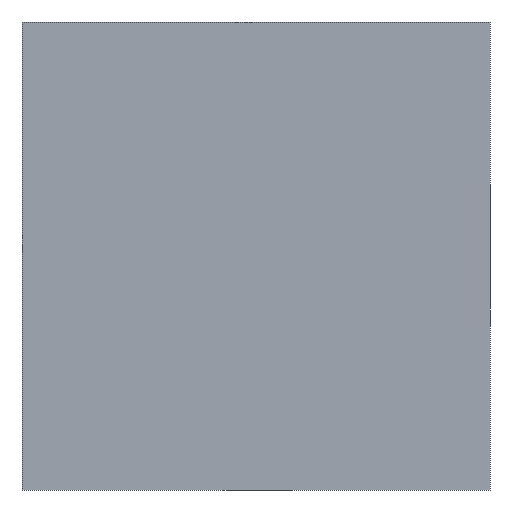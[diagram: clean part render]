
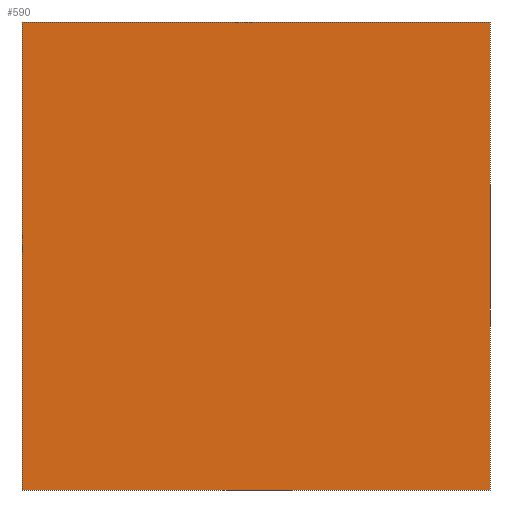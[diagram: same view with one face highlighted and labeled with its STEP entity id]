
A CAD part, front view. The second image highlights one B-rep face of the part: STEP entity #590.
In plain terms, the highlighted planar face has unit normal (0, -1, 0).
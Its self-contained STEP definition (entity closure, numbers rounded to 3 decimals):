
#44 = PLANE('',#45);
#45 = AXIS2_PLACEMENT_3D('',#46,#47,#48);
#46 = CARTESIAN_POINT('',(0.,0.,0.));
#47 = DIRECTION('',(-1.,0.,0.));
#48 = DIRECTION('',(0.,1.,0.));
#72 = PLANE('',#73);
#73 = AXIS2_PLACEMENT_3D('',#74,#75,#76);
#74 = CARTESIAN_POINT('',(6.5,106.5,13.));
#75 = DIRECTION('',(-0.,-0.,-1.));
#76 = DIRECTION('',(-1.,0.,0.));
#100 = PLANE('',#101);
#101 = AXIS2_PLACEMENT_3D('',#102,#103,#104);
#102 = CARTESIAN_POINT('',(13.,213.,0.));
#103 = DIRECTION('',(1.,0.,0.));
#104 = DIRECTION('',(0.,-1.,0.));
#126 = PLANE('',#127);
#127 = AXIS2_PLACEMENT_3D('',#128,#129,#130);
#128 = CARTESIAN_POINT('',(6.5,106.5,0.));
#129 = DIRECTION('',(-0.,-0.,-1.));
#130 = DIRECTION('',(-1.,0.,0.));
#141 = EDGE_CURVE('',#142,#144,#146,.T.);
#142 = VERTEX_POINT('',#143);
#143 = CARTESIAN_POINT('',(0.,0.,0.));
#144 = VERTEX_POINT('',#145);
#145 = CARTESIAN_POINT('',(0.,0.,13.));
#146 = SURFACE_CURVE('',#147,(#151,#158),.PCURVE_S1.);
#147 = LINE('',#148,#149);
#148 = CARTESIAN_POINT('',(0.,0.,0.));
#149 = VECTOR('',#150,1.);
#150 = DIRECTION('',(0.,0.,1.));
#151 = PCURVE('',#44,#152);
#152 = DEFINITIONAL_REPRESENTATION('',(#153),#157);
#153 = LINE('',#154,#155);
#154 = CARTESIAN_POINT('',(0.,0.));
#155 = VECTOR('',#156,1.);
#156 = DIRECTION('',(0.,-1.));
#157 = ( GEOMETRIC_REPRESENTATION_CONTEXT(2) 
PARAMETRIC_REPRESENTATION_CONTEXT() REPRESENTATION_CONTEXT('2D SPACE',''
  ) );
#158 = PCURVE('',#159,#164);
#159 = PLANE('',#160);
#160 = AXIS2_PLACEMENT_3D('',#161,#162,#163);
#161 = CARTESIAN_POINT('',(13.,0.,0.));
#162 = DIRECTION('',(0.,-1.,0.));
#163 = DIRECTION('',(-1.,0.,0.));
#164 = DEFINITIONAL_REPRESENTATION('',(#165),#169);
#165 = LINE('',#166,#167);
#166 = CARTESIAN_POINT('',(13.,0.));
#167 = VECTOR('',#168,1.);
#168 = DIRECTION('',(0.,-1.));
#169 = ( GEOMETRIC_REPRESENTATION_CONTEXT(2) 
PARAMETRIC_REPRESENTATION_CONTEXT() REPRESENTATION_CONTEXT('2D SPACE',''
  ) );
#289 = VERTEX_POINT('',#290);
#290 = CARTESIAN_POINT('',(13.,0.,13.));
#311 = EDGE_CURVE('',#312,#289,#314,.T.);
#312 = VERTEX_POINT('',#313);
#313 = CARTESIAN_POINT('',(13.,0.,0.));
#314 = SURFACE_CURVE('',#315,(#319,#326),.PCURVE_S1.);
#315 = LINE('',#316,#317);
#316 = CARTESIAN_POINT('',(13.,0.,0.));
#317 = VECTOR('',#318,1.);
#318 = DIRECTION('',(0.,0.,1.));
#319 = PCURVE('',#100,#320);
#320 = DEFINITIONAL_REPRESENTATION('',(#321),#325);
#321 = LINE('',#322,#323);
#322 = CARTESIAN_POINT('',(213.,0.));
#323 = VECTOR('',#324,1.);
#324 = DIRECTION('',(0.,-1.));
#325 = ( GEOMETRIC_REPRESENTATION_CONTEXT(2) 
PARAMETRIC_REPRESENTATION_CONTEXT() REPRESENTATION_CONTEXT('2D SPACE',''
  ) );
#326 = PCURVE('',#159,#327);
#327 = DEFINITIONAL_REPRESENTATION('',(#328),#332);
#328 = LINE('',#329,#330);
#329 = CARTESIAN_POINT('',(0.,-0.));
#330 = VECTOR('',#331,1.);
#331 = DIRECTION('',(0.,-1.));
#332 = ( GEOMETRIC_REPRESENTATION_CONTEXT(2) 
PARAMETRIC_REPRESENTATION_CONTEXT() REPRESENTATION_CONTEXT('2D SPACE',''
  ) );
#412 = EDGE_CURVE('',#312,#142,#413,.T.);
#413 = SURFACE_CURVE('',#414,(#418,#425),.PCURVE_S1.);
#414 = LINE('',#415,#416);
#415 = CARTESIAN_POINT('',(13.,0.,0.));
#416 = VECTOR('',#417,1.);
#417 = DIRECTION('',(-1.,0.,0.));
#418 = PCURVE('',#126,#419);
#419 = DEFINITIONAL_REPRESENTATION('',(#420),#424);
#420 = LINE('',#421,#422);
#421 = CARTESIAN_POINT('',(-6.5,-106.5));
#422 = VECTOR('',#423,1.);
#423 = DIRECTION('',(1.,0.));
#424 = ( GEOMETRIC_REPRESENTATION_CONTEXT(2) 
PARAMETRIC_REPRESENTATION_CONTEXT() REPRESENTATION_CONTEXT('2D SPACE',''
  ) );
#425 = PCURVE('',#159,#426);
#426 = DEFINITIONAL_REPRESENTATION('',(#427),#431);
#427 = LINE('',#428,#429);
#428 = CARTESIAN_POINT('',(0.,-0.));
#429 = VECTOR('',#430,1.);
#430 = DIRECTION('',(1.,0.));
#431 = ( GEOMETRIC_REPRESENTATION_CONTEXT(2) 
PARAMETRIC_REPRESENTATION_CONTEXT() REPRESENTATION_CONTEXT('2D SPACE',''
  ) );
#509 = EDGE_CURVE('',#289,#144,#510,.T.);
#510 = SURFACE_CURVE('',#511,(#515,#522),.PCURVE_S1.);
#511 = LINE('',#512,#513);
#512 = CARTESIAN_POINT('',(13.,0.,13.));
#513 = VECTOR('',#514,1.);
#514 = DIRECTION('',(-1.,0.,0.));
#515 = PCURVE('',#72,#516);
#516 = DEFINITIONAL_REPRESENTATION('',(#517),#521);
#517 = LINE('',#518,#519);
#518 = CARTESIAN_POINT('',(-6.5,-106.5));
#519 = VECTOR('',#520,1.);
#520 = DIRECTION('',(1.,0.));
#521 = ( GEOMETRIC_REPRESENTATION_CONTEXT(2) 
PARAMETRIC_REPRESENTATION_CONTEXT() REPRESENTATION_CONTEXT('2D SPACE',''
  ) );
#522 = PCURVE('',#159,#523);
#523 = DEFINITIONAL_REPRESENTATION('',(#524),#528);
#524 = LINE('',#525,#526);
#525 = CARTESIAN_POINT('',(0.,-13.));
#526 = VECTOR('',#527,1.);
#527 = DIRECTION('',(1.,0.));
#528 = ( GEOMETRIC_REPRESENTATION_CONTEXT(2) 
PARAMETRIC_REPRESENTATION_CONTEXT() REPRESENTATION_CONTEXT('2D SPACE',''
  ) );
#590 = ADVANCED_FACE('',(#591),#159,.T.);
#591 = FACE_BOUND('',#592,.T.);
#592 = EDGE_LOOP('',(#593,#594,#595,#596));
#593 = ORIENTED_EDGE('',*,*,#311,.T.);
#594 = ORIENTED_EDGE('',*,*,#509,.T.);
#595 = ORIENTED_EDGE('',*,*,#141,.F.);
#596 = ORIENTED_EDGE('',*,*,#412,.F.);
